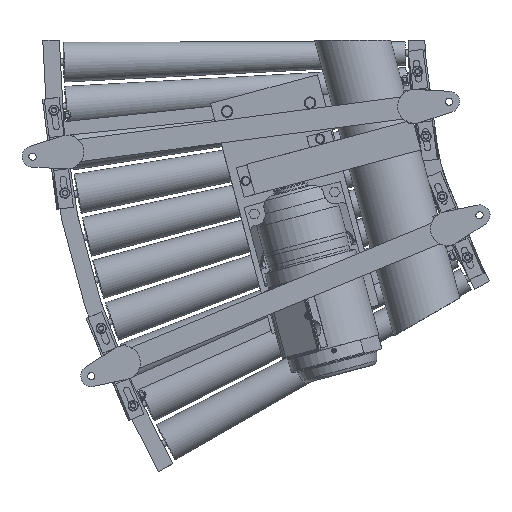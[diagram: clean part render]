
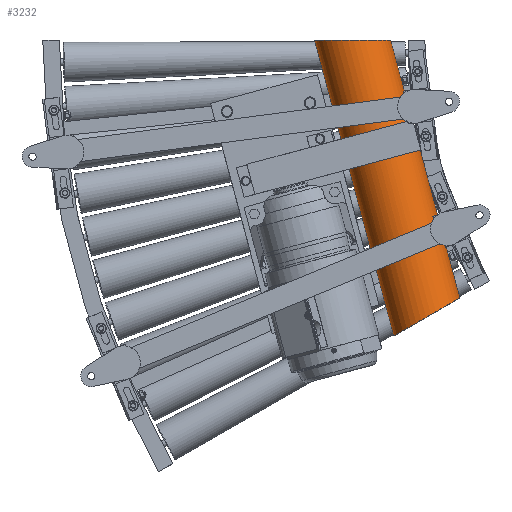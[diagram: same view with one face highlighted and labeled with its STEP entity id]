
A CAD part, front view. The second image highlights one B-rep face of the part: STEP entity #3232.
In plain terms, the highlighted cylindrical face has radius 66.3 mm (diameter 132.6 mm), a partial arc.
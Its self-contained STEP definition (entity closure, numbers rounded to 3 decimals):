
#3232=ADVANCED_FACE('',(#17872),#17871,.T.);
#17871=CYLINDRICAL_SURFACE('',#38687,66.3);
#17872=FACE_OUTER_BOUND('',#38688,.T.);
#38684=CARTESIAN_POINT('',(210.062,-151.7,17.16));
#38685=DIRECTION('',(-0.259,0.,0.966));
#38686=DIRECTION('',(0.966,0.,0.259));
#38687=AXIS2_PLACEMENT_3D('',#38684,#38685,#38686);
#38688=EDGE_LOOP('',(#51930,#51931,#51932,#51933));
#51930=ORIENTED_EDGE('',*,*,#61702,.F.);
#51931=ORIENTED_EDGE('',*,*,#61703,.F.);
#51932=ORIENTED_EDGE('',*,*,#61704,.F.);
#51933=ORIENTED_EDGE('',*,*,#61705,.F.);
#61702=EDGE_CURVE('',#86264,#86265,#86266,.T.);
#61703=EDGE_CURVE('',#86272,#86264,#86273,.T.);
#61704=EDGE_CURVE('',#86279,#86272,#86280,.T.);
#61705=EDGE_CURVE('',#86265,#86279,#86286,.T.);
#86264=VERTEX_POINT('',#123781);
#86265=VERTEX_POINT('',#123782);
#86266=(BOUNDED_CURVE() B_SPLINE_CURVE(2,(#123783,#123784,#123785,#123786,#123787),.UNSPECIFIED.,.F.,.F.) B_SPLINE_CURVE_WITH_KNOTS((3,2,3),(-3.142,-1.571,0.),.UNSPECIFIED.) CURVE() GEOMETRIC_REPRESENTATION_ITEM() RATIONAL_B_SPLINE_CURVE((1.,0.707,1.,0.707,1.)) REPRESENTATION_ITEM('') );
#86272=VERTEX_POINT('',#123788);
#86273=LINE('',#123789,#123790);
#86279=VERTEX_POINT('',#123792);
#86280=(BOUNDED_CURVE() B_SPLINE_CURVE(2,(#123793,#123794,#123795,#123796,#123797),.UNSPECIFIED.,.F.,.F.) B_SPLINE_CURVE_WITH_KNOTS((3,2,3),(-3.142,-1.571,0.),.UNSPECIFIED.) CURVE() GEOMETRIC_REPRESENTATION_ITEM() RATIONAL_B_SPLINE_CURVE((1.,0.707,1.,0.707,1.)) REPRESENTATION_ITEM('') );
#86286=LINE('',#123798,#123799);
#123781=CARTESIAN_POINT('',(408.123,-151.7,-465.85));
#123782=CARTESIAN_POINT('',(289.237,-151.7,-534.489));
#123783=CARTESIAN_POINT('',(408.123,-151.7,-465.85));
#123784=CARTESIAN_POINT('',(408.123,-218.,-465.85));
#123785=CARTESIAN_POINT('',(348.68,-218.,-500.17));
#123786=CARTESIAN_POINT('',(289.237,-218.,-534.489));
#123787=CARTESIAN_POINT('',(289.237,-151.7,-534.489));
#123788=CARTESIAN_POINT('',(283.299,-151.7,0.));
#123789=CARTESIAN_POINT('',(283.299,-151.7,0.));
#123790=VECTOR('',#123791,482.284);
#123791=DIRECTION('',(0.259,0.,-0.966));
#123792=CARTESIAN_POINT('',(146.022,-151.7,0.));
#123793=CARTESIAN_POINT('',(146.022,-151.7,0.));
#123794=CARTESIAN_POINT('',(146.022,-218.,0.));
#123795=CARTESIAN_POINT('',(214.66,-218.,0.));
#123796=CARTESIAN_POINT('',(283.299,-218.,0.));
#123797=CARTESIAN_POINT('',(283.299,-151.7,0.));
#123798=CARTESIAN_POINT('',(289.237,-151.7,-534.489));
#123799=VECTOR('',#123800,553.344);
#123800=DIRECTION('',(-0.259,0.,0.966));
